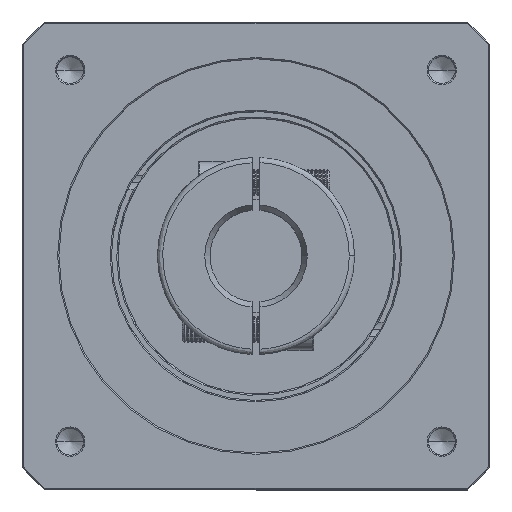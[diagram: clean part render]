
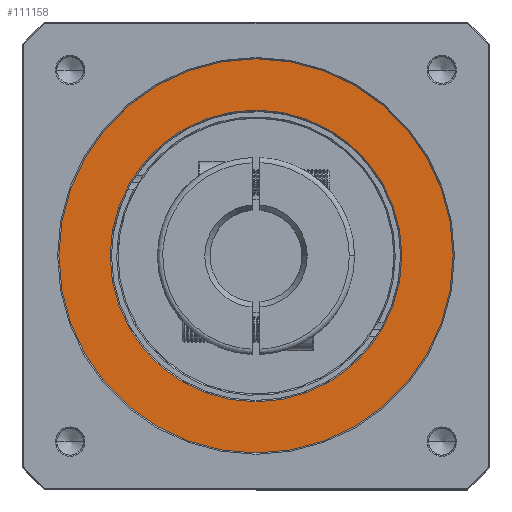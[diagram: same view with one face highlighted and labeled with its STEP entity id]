
A CAD part, top view. The second image highlights one B-rep face of the part: STEP entity #111158.
In plain terms, the highlighted planar face has unit normal (0, 0, 1).
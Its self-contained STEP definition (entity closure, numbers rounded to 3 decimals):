
#1592 = CIRCLE ( 'NONE', #2426, 75. ) ;
#2426 = AXIS2_PLACEMENT_3D ( 'NONE', #84464, #3917, #73236 ) ;
#2886 = EDGE_LOOP ( 'NONE', ( #109015, #17711 ) ) ;
#3917 = DIRECTION ( 'NONE',  ( 0., 0., 1. ) ) ;
#12389 = FACE_OUTER_BOUND ( 'NONE', #2886, .T. ) ;
#13373 = CARTESIAN_POINT ( 'NONE',  ( -70.688, 108.636, 9.651 ) ) ;
#16602 = EDGE_CURVE ( 'NONE', #119498, #117562, #28006, .T. ) ;
#17711 = ORIENTED_EDGE ( 'NONE', *, *, #121642, .T. ) ;
#19856 = DIRECTION ( 'NONE',  ( 1., 0., 0. ) ) ;
#28006 = CIRCLE ( 'NONE', #70283, 55.5 ) ;
#28174 = DIRECTION ( 'NONE',  ( 1., 0., 0. ) ) ;
#30078 = ORIENTED_EDGE ( 'NONE', *, *, #125318, .T. ) ;
#32192 = CARTESIAN_POINT ( 'NONE',  ( -15.188, 108.636, 9.651 ) ) ;
#37591 = ORIENTED_EDGE ( 'NONE', *, *, #16602, .T. ) ;
#44987 = DIRECTION ( 'NONE',  ( 0., 0., 1. ) ) ;
#46310 = EDGE_CURVE ( 'NONE', #87420, #92690, #48167, .T. ) ;
#48167 = CIRCLE ( 'NONE', #70422, 75. ) ;
#49413 = PLANE ( 'NONE',  #100698 ) ;
#50193 = CIRCLE ( 'NONE', #70236, 55.5 ) ;
#50673 = CARTESIAN_POINT ( 'NONE',  ( -145.688, 108.636, 9.651 ) ) ;
#54153 = DIRECTION ( 'NONE',  ( 1., 0., 0. ) ) ;
#55423 = DIRECTION ( 'NONE',  ( 1., 0., 0. ) ) ;
#58916 = DIRECTION ( 'NONE',  ( 0., 0., 1. ) ) ;
#65206 = FACE_BOUND ( 'NONE', #69463, .T. ) ;
#69463 = EDGE_LOOP ( 'NONE', ( #30078, #37591 ) ) ;
#70236 = AXIS2_PLACEMENT_3D ( 'NONE', #13373, #72732, #54153 ) ;
#70283 = AXIS2_PLACEMENT_3D ( 'NONE', #126913, #116479, #28174 ) ;
#70422 = AXIS2_PLACEMENT_3D ( 'NONE', #104179, #44987, #55423 ) ;
#72732 = DIRECTION ( 'NONE',  ( 0., 0., -1. ) ) ;
#73236 = DIRECTION ( 'NONE',  ( 1., 0., 0. ) ) ;
#82468 = CARTESIAN_POINT ( 'NONE',  ( -126.188, 108.636, 9.651 ) ) ;
#84464 = CARTESIAN_POINT ( 'NONE',  ( -70.688, 108.636, 9.651 ) ) ;
#87420 = VERTEX_POINT ( 'NONE', #93789 ) ;
#92690 = VERTEX_POINT ( 'NONE', #50673 ) ;
#93789 = CARTESIAN_POINT ( 'NONE',  ( 4.312, 108.636, 9.651 ) ) ;
#100698 = AXIS2_PLACEMENT_3D ( 'NONE', #127260, #58916, #19856 ) ;
#104179 = CARTESIAN_POINT ( 'NONE',  ( -70.688, 108.636, 9.651 ) ) ;
#109015 = ORIENTED_EDGE ( 'NONE', *, *, #46310, .T. ) ;
#111158 = ADVANCED_FACE ( 'NONE', ( #65206, #12389 ), #49413, .T. ) ;
#116479 = DIRECTION ( 'NONE',  ( 0., 0., -1. ) ) ;
#117562 = VERTEX_POINT ( 'NONE', #32192 ) ;
#119498 = VERTEX_POINT ( 'NONE', #82468 ) ;
#121642 = EDGE_CURVE ( 'NONE', #92690, #87420, #1592, .T. ) ;
#125318 = EDGE_CURVE ( 'NONE', #117562, #119498, #50193, .T. ) ;
#126913 = CARTESIAN_POINT ( 'NONE',  ( -70.688, 108.636, 9.651 ) ) ;
#127260 = CARTESIAN_POINT ( 'NONE',  ( -70.688, 108.636, 9.651 ) ) ;
